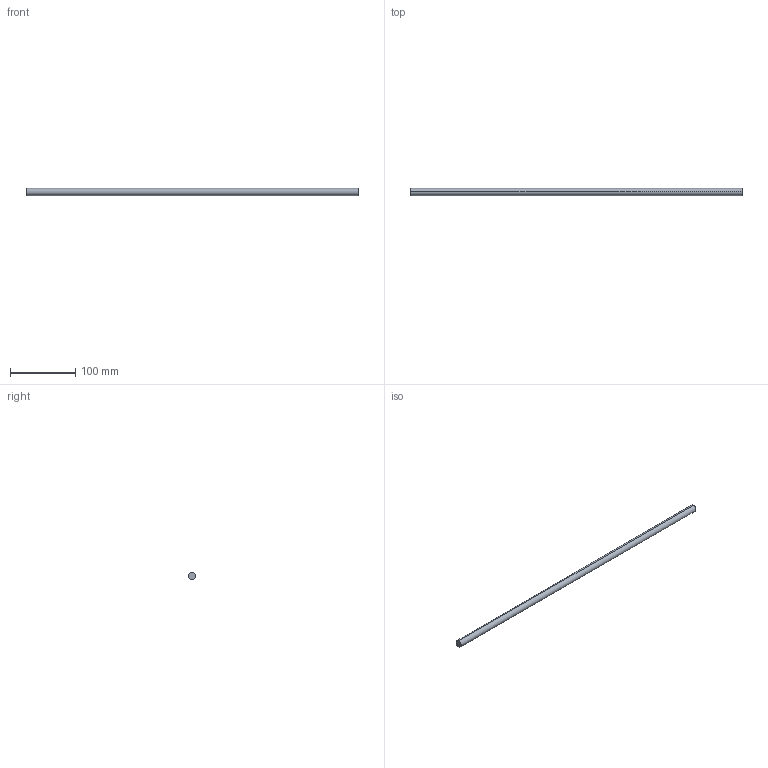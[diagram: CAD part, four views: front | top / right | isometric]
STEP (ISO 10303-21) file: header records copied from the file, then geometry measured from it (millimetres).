
FILE_DESCRIPTION (( 'STEP AP214' ), '1' );
FILE_NAME ('Querreling_Frontblende_Innenlade_KS19_KAB-600.step', '2010-09-22T15:05:34', ( 'grass' ), ( '' ), 'SwSTEP 2.0', 'SolidWorks 2010', '' );
FILE_SCHEMA (( 'AUTOMOTIVE_DESIGN' ));
Length unit declared in the file: millimetre
Products named in the file (1): Querreling_Frontblende_Innenlade_KS19_KAB-600
Bounding box: 509 x 11 x 11 mm (x, y, z)
Volume: 48371.9 mm3; surface area: 17779.8 mm2
Topology: 1 solids, 1 shells, 4 faces, 6 edges, 4 vertices
Faces by surface type: cylinder 2, plane 2
Entity records: 128 total; most frequent: DIRECTION 20, CARTESIAN_POINT 15, ORIENTED_EDGE 12, AXIS2_PLACEMENT_3D 9, EDGE_CURVE 6, FACE_OUTER_BOUND 4, EDGE_LOOP 4, CIRCLE 4
